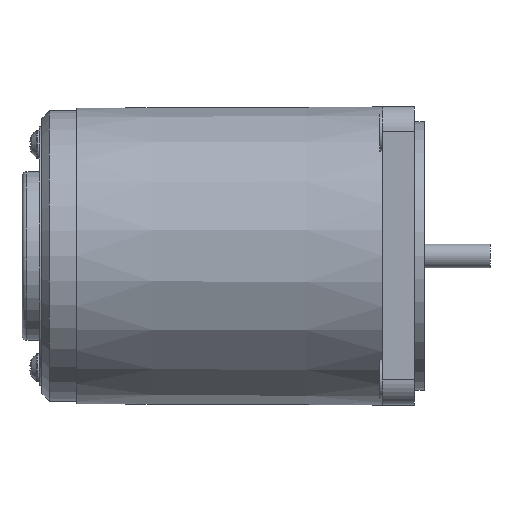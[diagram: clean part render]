
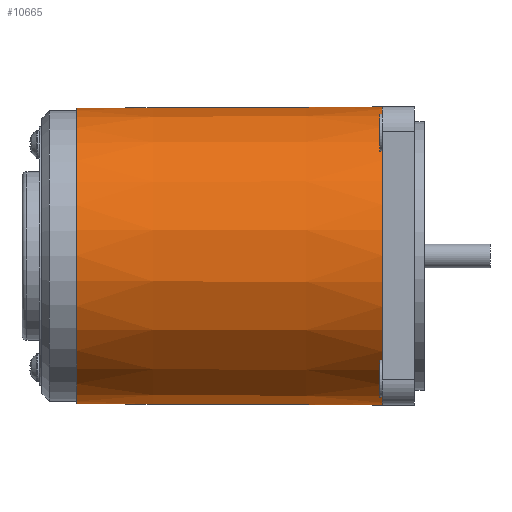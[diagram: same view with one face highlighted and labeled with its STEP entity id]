
A CAD part, top view. The second image highlights one B-rep face of the part: STEP entity #10665.
In plain terms, the highlighted conical face has half-angle 0.233 degrees and reference radius 29.875 mm.
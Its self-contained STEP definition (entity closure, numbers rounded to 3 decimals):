
#41=(
BOUNDED_CURVE()
B_SPLINE_CURVE(2,(#17797,#17798,#17799),.UNSPECIFIED.,.F.,.F.)
B_SPLINE_CURVE_WITH_KNOTS((3,3),(0.,4.2),.UNSPECIFIED.)
CURVE()
GEOMETRIC_REPRESENTATION_ITEM()
RATIONAL_B_SPLINE_CURVE((1.,1.,1.))
REPRESENTATION_ITEM('')
);
#42=(
BOUNDED_CURVE()
B_SPLINE_CURVE(2,(#17883,#17884,#17885),.UNSPECIFIED.,.F.,.F.)
B_SPLINE_CURVE_WITH_KNOTS((3,3),(0.,4.2),.UNSPECIFIED.)
CURVE()
GEOMETRIC_REPRESENTATION_ITEM()
RATIONAL_B_SPLINE_CURVE((1.,1.,1.))
REPRESENTATION_ITEM('')
);
#1910=CONICAL_SURFACE('',#11676,29.875,0.233);
#2169=FACE_BOUND('',#3342,.T.);
#2691=FACE_OUTER_BOUND('',#3341,.T.);
#3341=EDGE_LOOP('',(#8698));
#3342=EDGE_LOOP('',(#8699,#8700,#8701,#8702,#8703,#8704,#8705,#8706,#8707));
#3926=CIRCLE('',#11668,29.829);
#3929=CIRCLE('',#11673,29.829);
#3931=CIRCLE('',#11675,29.829);
#3932=CIRCLE('',#11677,29.75);
#3933=CIRCLE('',#11678,30.);
#3934=CIRCLE('',#11679,30.);
#3935=CIRCLE('',#11680,30.);
#3936=CIRCLE('',#11681,30.);
#4748=VERTEX_POINT('',#17686);
#4749=VERTEX_POINT('',#17693);
#4754=VERTEX_POINT('',#17793);
#4755=VERTEX_POINT('',#17795);
#4758=VERTEX_POINT('',#17880);
#4759=VERTEX_POINT('',#17882);
#4760=VERTEX_POINT('',#17888);
#4761=VERTEX_POINT('',#17890);
#4762=VERTEX_POINT('',#17892);
#4763=VERTEX_POINT('',#17894);
#6105=EDGE_CURVE('',#4749,#4748,#3926,.T.);
#6115=EDGE_CURVE('',#4755,#4749,#3929,.T.);
#6116=EDGE_CURVE('',#4754,#4755,#41,.T.);
#6122=EDGE_CURVE('',#4759,#4758,#42,.T.);
#6123=EDGE_CURVE('',#4748,#4759,#3931,.T.);
#6124=EDGE_CURVE('',#4760,#4760,#3932,.T.);
#6125=EDGE_CURVE('',#4761,#4758,#3933,.T.);
#6126=EDGE_CURVE('',#4762,#4761,#3934,.T.);
#6127=EDGE_CURVE('',#4763,#4762,#3935,.T.);
#6128=EDGE_CURVE('',#4754,#4763,#3936,.T.);
#8698=ORIENTED_EDGE('',*,*,#6124,.T.);
#8699=ORIENTED_EDGE('',*,*,#6116,.T.);
#8700=ORIENTED_EDGE('',*,*,#6115,.T.);
#8701=ORIENTED_EDGE('',*,*,#6105,.T.);
#8702=ORIENTED_EDGE('',*,*,#6123,.T.);
#8703=ORIENTED_EDGE('',*,*,#6122,.T.);
#8704=ORIENTED_EDGE('',*,*,#6125,.F.);
#8705=ORIENTED_EDGE('',*,*,#6126,.F.);
#8706=ORIENTED_EDGE('',*,*,#6127,.F.);
#8707=ORIENTED_EDGE('',*,*,#6128,.F.);
#10665=ADVANCED_FACE('',(#2691,#2169),#1910,.T.);
#11668=AXIS2_PLACEMENT_3D('',#17694,#14294,#14295);
#11673=AXIS2_PLACEMENT_3D('',#17796,#14307,#14308);
#11675=AXIS2_PLACEMENT_3D('',#17886,#14313,#14314);
#11676=AXIS2_PLACEMENT_3D('',#17887,#14315,#14316);
#11677=AXIS2_PLACEMENT_3D('',#17889,#14317,#14318);
#11678=AXIS2_PLACEMENT_3D('',#17891,#14319,#14320);
#11679=AXIS2_PLACEMENT_3D('',#17893,#14321,#14322);
#11680=AXIS2_PLACEMENT_3D('',#17895,#14323,#14324);
#11681=AXIS2_PLACEMENT_3D('',#17896,#14325,#14326);
#14294=DIRECTION('center_axis',(-1.,0.,0.));
#14295=DIRECTION('ref_axis',(0.,1.,0.));
#14307=DIRECTION('center_axis',(-1.,0.,0.));
#14308=DIRECTION('ref_axis',(0.,1.,0.));
#14313=DIRECTION('center_axis',(-1.,0.,0.));
#14314=DIRECTION('ref_axis',(0.,1.,0.));
#14315=DIRECTION('center_axis',(1.,0.,0.));
#14316=DIRECTION('ref_axis',(0.,1.,0.));
#14317=DIRECTION('center_axis',(1.,0.,0.));
#14318=DIRECTION('ref_axis',(0.,1.,0.));
#14319=DIRECTION('center_axis',(1.,0.,0.));
#14320=DIRECTION('ref_axis',(0.,1.,0.));
#14321=DIRECTION('center_axis',(1.,0.,0.));
#14322=DIRECTION('ref_axis',(0.,1.,0.));
#14323=DIRECTION('center_axis',(1.,0.,0.));
#14324=DIRECTION('ref_axis',(0.,1.,0.));
#14325=DIRECTION('center_axis',(1.,0.,0.));
#14326=DIRECTION('ref_axis',(0.,1.,0.));
#17686=CARTESIAN_POINT('',(26.5,-21.289,-20.894));
#17693=CARTESIAN_POINT('',(26.5,21.289,-20.894));
#17694=CARTESIAN_POINT('Origin',(26.5,0.,0.));
#17793=CARTESIAN_POINT('',(68.5,21.782,-20.628));
#17795=CARTESIAN_POINT('',(26.5,21.769,-20.393));
#17796=CARTESIAN_POINT('Origin',(26.5,0.,0.));
#17797=CARTESIAN_POINT('Ctrl Pts',(68.5,21.782,-20.628));
#17798=CARTESIAN_POINT('Ctrl Pts',(47.386,21.776,-20.51));
#17799=CARTESIAN_POINT('Ctrl Pts',(26.5,21.769,-20.393));
#17880=CARTESIAN_POINT('',(68.5,-21.782,-20.628));
#17882=CARTESIAN_POINT('',(26.5,-21.769,-20.393));
#17883=CARTESIAN_POINT('Ctrl Pts',(26.5,-21.769,-20.393));
#17884=CARTESIAN_POINT('Ctrl Pts',(47.386,-21.776,-20.51));
#17885=CARTESIAN_POINT('Ctrl Pts',(68.5,-21.782,-20.628));
#17886=CARTESIAN_POINT('Origin',(26.5,0.,0.));
#17887=CARTESIAN_POINT('Origin',(37.75,0.,0.));
#17888=CARTESIAN_POINT('',(7.,29.75,0.));
#17889=CARTESIAN_POINT('Origin',(7.,0.,0.));
#17890=CARTESIAN_POINT('',(68.5,-30.,0.));
#17891=CARTESIAN_POINT('Origin',(68.5,0.,0.));
#17892=CARTESIAN_POINT('',(68.5,0.,30.));
#17893=CARTESIAN_POINT('Origin',(68.5,0.,0.));
#17894=CARTESIAN_POINT('',(68.5,30.,0.));
#17895=CARTESIAN_POINT('Origin',(68.5,0.,0.));
#17896=CARTESIAN_POINT('Origin',(68.5,0.,0.));
